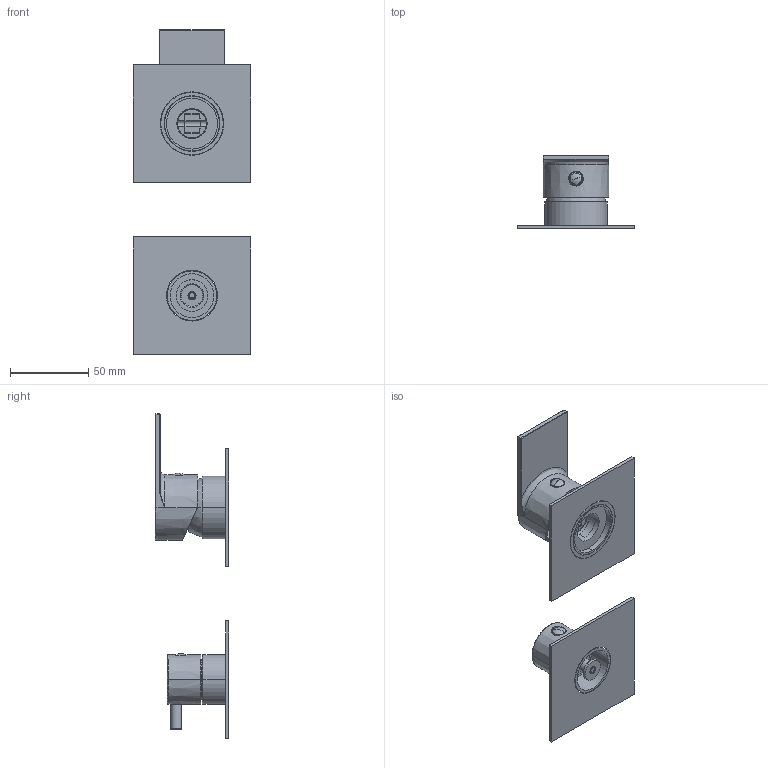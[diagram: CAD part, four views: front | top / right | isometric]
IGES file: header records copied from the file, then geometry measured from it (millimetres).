
Start section:  PTC IGES file: 3d_sw0002.igs
Global section: file name: 3d_sw0002.igs; native system: Creo Parametric by PTC Inc.; preprocessor: 2022014; author: volponeff; organization: Unknown; date: 20240930.164024; units: millimetre
Bounding box: 75 x 46.9 x 207.5 mm (x, y, z)
Surface area: 66773.4 mm2 (no closed solid volume)
Topology: 0 solids, 0 shells, 859 faces, 4706 edges, 4682 vertices
Faces by surface type: revolution 534, bspline 325
